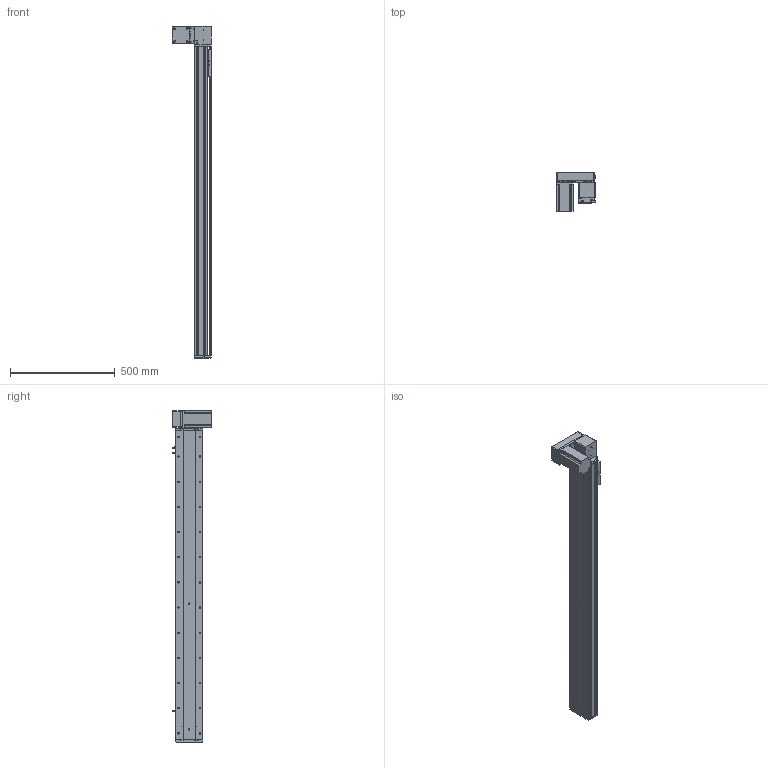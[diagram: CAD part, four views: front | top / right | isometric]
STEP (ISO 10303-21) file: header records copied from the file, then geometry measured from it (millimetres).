
FILE_DESCRIPTION (( 'STEP AP214' ), '1' );
FILE_NAME ('KSD130B-S1250-MRD-CM.STEP', '2019-11-16T00:58:23', ( '微软用户' ), ( '微软中国' ), 'SwSTEP 2.0', 'SolidWorks 2014', '' );
FILE_SCHEMA (( 'AUTOMOTIVE_DESIGN' ));
Length unit declared in the file: millimetre
Products named in the file (12): 覜茼え100遵圉猾敕; 130宽马达安装板同步带右-改镜向_默认<按加工>; U倰嫖萇EEㄜSX672; 130宽盖板半封闭同步带-1250行程; 130宽马达安装板同步带半封闭; 130宽模组保护罩上下左右折-同步带; 130宽同步带安装座半封闭; 台达ECMA－C20807AS伺服电机; 130宽端盖同步带半封闭; 130宽模组马达安装板连板上下折丝杆同步带; 130宽底板半封闭同步带-1250行程; KSD130B-S1250-MRD-CM
Assembly tree (13 placements, depth 2):
  KSD130B-S1250-MRD-CM
    130宽底板半封闭同步带-1250行程
    130宽端盖同步带半封闭
    130宽同步带安装座半封闭
    130宽马达安装板同步带半封闭
    130宽马达安装板同步带右-改镜向_默认<按加工>
    130宽盖板半封闭同步带-1250行程
    U倰嫖萇EEㄜSX672  x3
    覜茼え100遵圉猾敕
    130宽模组马达安装板连板上下折丝杆同步带
    台达ECMA－C20807AS伺服电机
    130宽模组保护罩上下左右折-同步带
Bounding box: 186 x 184.8 x 1583 mm (x, y, z)
Volume: 5640058.3 mm3; surface area: 1563440.3 mm2
Topology: 14 solids, 14 shells, 1599 faces, 4605 edges, 2931 vertices
Faces by surface type: cylinder 774, plane 634, cone 191
Entity records: 53375 total; most frequent: CARTESIAN_POINT 10080, DIRECTION 8095, ORIENTED_EDGE 7814, EDGE_CURVE 3907, AXIS2_PLACEMENT_3D 2966, VERTEX_POINT 2555, LINE 2163, VECTOR 2163
